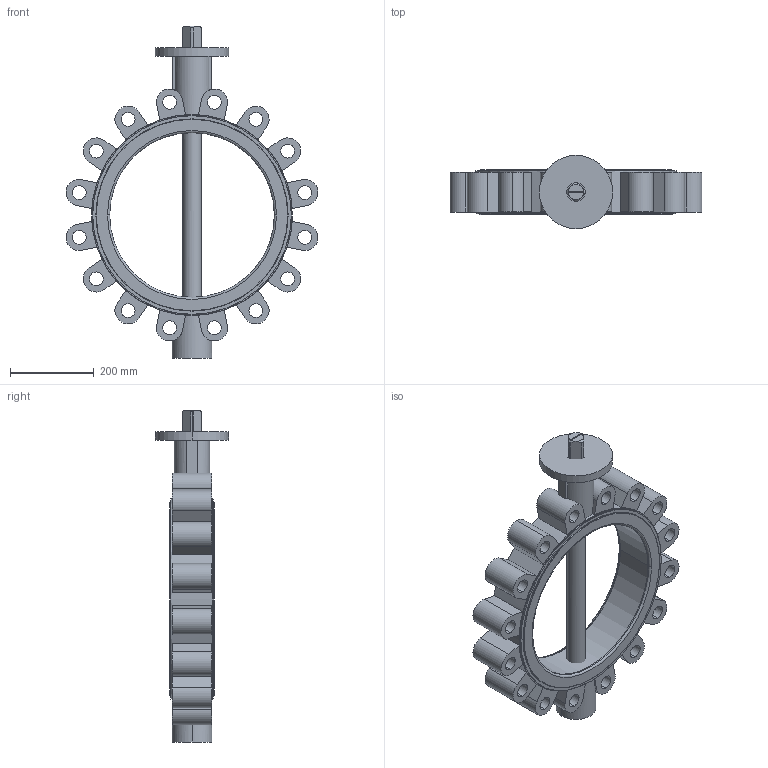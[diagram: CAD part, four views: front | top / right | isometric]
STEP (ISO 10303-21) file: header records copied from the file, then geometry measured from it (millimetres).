
FILE_DESCRIPTION (( 'STEP AP203' ), '1' );
FILE_NAME ('2502 LT型中线衬胶带销 无头蝶阀 DN400 PN25 CD0309396.STEP', '2026-05-29T07:19:23', ( '' ), ( '' ), 'SwSTEP 2.0', 'SolidWorks 2021', '' );
FILE_SCHEMA (( 'CONFIG_CONTROL_DESIGN' ));
Length unit declared in the file: millimetre
Products named in the file (4): 2502 LT型中线衬胶带销 无头蝶阀 DN400 PN25 CD0309396; GALA-D400-04AZC-00; 中线通轴带销衬胶蝶阀阀轴-DN400-GALA-D400-03ZC-01; GALA-D400-01LC25-00
Assembly tree (3 placements, depth 2):
  2502 LT型中线衬胶带销 无头蝶阀 DN400 PN25 CD0309396
    GALA-D400-01LC25-00
    GALA-D400-04AZC-00
    中线通轴带销衬胶蝶阀阀轴-DN400-GALA-D400-03ZC-01
Bounding box: 602.43 x 175 x 794 mm (x, y, z)
Volume: 13835019.1 mm3; surface area: 1418574.3 mm2
Topology: 3 solids, 3 shells, 218 faces, 547 edges, 351 vertices
Faces by surface type: plane 98, cylinder 83, cone 19, torus 18
Entity records: 7436 total; most frequent: CARTESIAN_POINT 1568, DIRECTION 1220, ORIENTED_EDGE 1094, EDGE_CURVE 547, AXIS2_PLACEMENT_3D 485, VERTEX_POINT 351, EDGE_LOOP 270, CIRCLE 261
